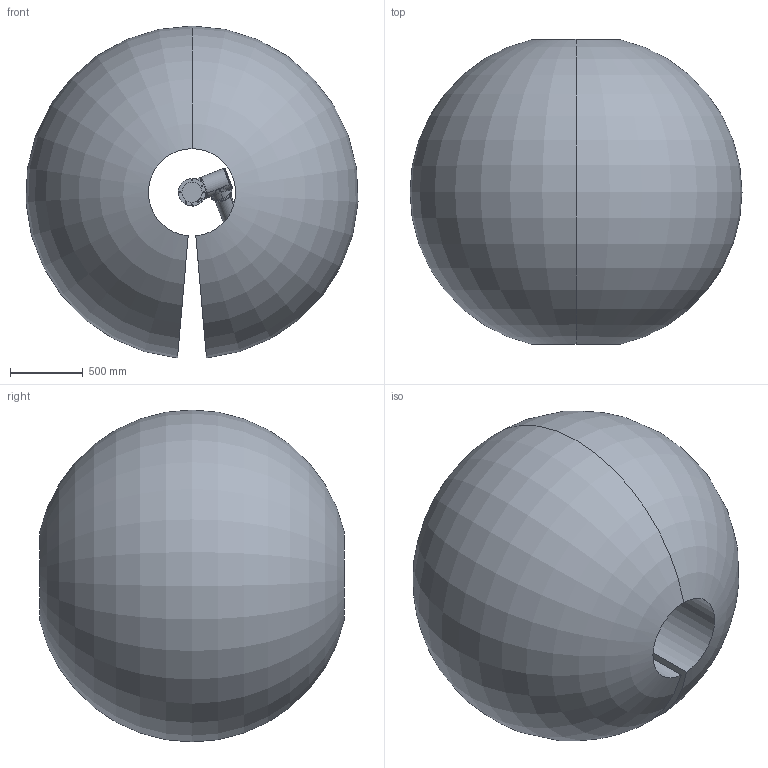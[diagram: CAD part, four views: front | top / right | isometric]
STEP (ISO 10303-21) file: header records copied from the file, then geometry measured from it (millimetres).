
FILE_DESCRIPTION (( 'STEP AP203' ), '1' );
FILE_NAME ('S1034-Èí¼þÄ£ÐÍ.STEP', '2024-07-15T09:53:04', ( '' ), ( '' ), 'SwSTEP 2.0', 'SolidWorks 2022', '' );
FILE_SCHEMA (( 'CONFIG_CONTROL_DESIGN' ));
Length unit declared in the file: millimetre
Products named in the file (8): S1034-04; S1034-软件模型; S1034-01; S1034-02; S1034堍雄毓峓; S1034-05.06; S1034-07; S1034-03
Assembly tree (8 placements, depth 2):
  S1034-软件模型
    S1034-01
    S1034-02
    S1034-03
    S1034-04
    S1034-05.06  x2
    S1034-07
    S1034堍雄毓峓
Bounding box: 2289.25 x 2102.07 x 2288.76 mm (x, y, z)
Volume: 5319647112 mm3; surface area: 22740879.1 mm2
Topology: 29 solids, 57 shells, 2548 faces, 6282 edges, 3976 vertices
Faces by surface type: bspline 884, plane 784, cylinder 556, cone 140, sphere 125, torus 59
Entity records: 163301 total; most frequent: CARTESIAN_POINT 115453, ORIENTED_EDGE 11060, DIRECTION 7460, EDGE_CURVE 5530, VERTEX_POINT 3520, AXIS2_PLACEMENT_3D 2899, EDGE_LOOP 2486, B_SPLINE_CURVE_WITH_KNOTS 2356
